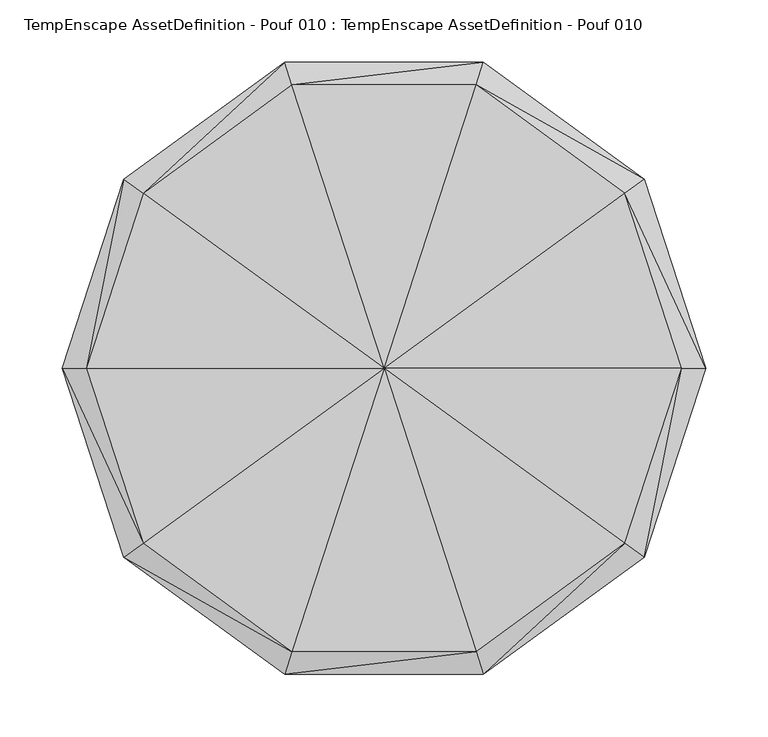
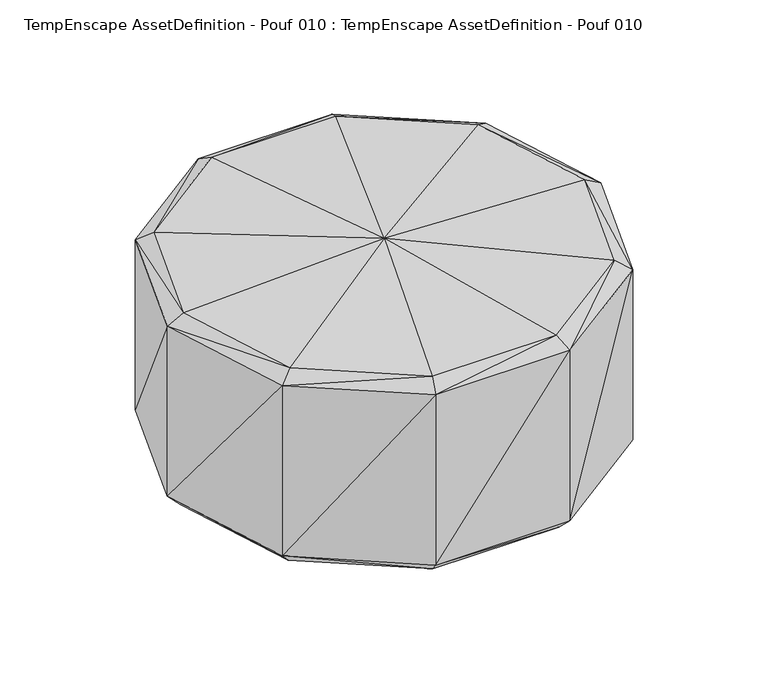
"""IFC4 building model written with IfcOpenShell, lengths in millimetres: geographic element geometry, TempEnscape AssetDefinition - Pouf 010 : TempEnscape AssetDefinition - Pouf 010."""

from ifc_helpers import new_model, si_unit, origin, place, context, project, spatial, faceted_brep, source, transform, mapped, element, save


def tempenscape_assetdefinition_pouf_010_tempenscape_f05cd489(model_context):
    return source(origin(), model_context, "Body", "Brep", [
        faceted_brep([(208.4229152, 151.4284016, 229.6982532), (257.624974, 0.0, 15.5799464), (208.4229152, 151.4284016, 15.5799464), (257.624974, 0.0, 229.6982532), (208.4229152, -151.4279546, 15.5799464), (195.818863, 142.2705438, 0.0), (242.0450416, 0.0, 0.0), (208.4229152, -151.4279546, 229.6982532), (193.0582684, 140.2651105, 240.0472827), (238.6331212, 0.0, 240.0472827), (79.6104282, -245.0159595, 15.5799464), (195.818863, -142.2705438, 0.0), (0.0, 0.0, 0.0), (74.7961112, 230.1988329, 0.0), (-74.7961112, 230.1988329, 0.0), (79.6104282, 245.0159595, 15.5799464), (79.6104282, 245.0159595, 229.6982532), (-79.6104282, 245.0159595, 229.6982532), (-79.6104282, 245.0159595, 15.5799464), (-195.818863, 142.2705438, 0.0), (-208.4229152, 151.4284016, 229.6982532), (-208.4229152, 151.4284016, 15.5799464), (-73.7417078, 226.9534694, 240.0472827), (-193.0582684, 140.2651105, 240.0472827), (-257.624974, 0.0, 229.6982532), (-238.6331212, 0.0, 240.0472827), (-257.624974, 0.0, 15.5799464), (-242.0450416, 0.0, 0.0), (-195.818863, -142.2705438, 0.0), (-208.4229152, -151.4279546, 229.6982532), (-208.4229152, -151.4279546, 15.5799464), (-193.0582684, -140.2646635, 240.0472827), (0.0, 0.0, 250.0), (-73.7417078, -226.9534694, 240.0472827), (-79.6104282, -245.0159595, 229.6982532), (-79.6104282, -245.0159595, 15.5799464), (-74.7961112, -230.1988329, 0.0), (74.7961112, -230.1988329, 0.0), (79.6104282, -245.0159595, 229.6982532), (73.7417078, -226.9534694, 240.0472827), (193.0582684, -140.2646635, 240.0472827), (73.7417078, 226.9534694, 240.0472827)], [[[0, 1, 2]], [[1, 0, 3]], [[3, 4, 1]], [[1, 5, 2]], [[5, 1, 6]], [[4, 6, 1]], [[4, 3, 7]], [[8, 3, 0]], [[3, 8, 9]], [[9, 7, 3]], [[7, 10, 4]], [[10, 11, 4]], [[6, 4, 11]], [[12, 5, 6]], [[12, 6, 11]], [[12, 13, 5]], [[13, 2, 5]], [[12, 14, 13]], [[2, 13, 15]], [[14, 15, 13]], [[16, 2, 15]], [[2, 16, 0]], [[17, 15, 18]], [[15, 17, 16]], [[15, 14, 18]], [[12, 19, 14]], [[19, 18, 14]], [[20, 18, 21]], [[18, 20, 17]], [[18, 19, 21]], [[22, 16, 17]], [[23, 17, 20]], [[17, 23, 22]], [[21, 24, 20]], [[25, 20, 24]], [[20, 25, 23]], [[24, 21, 26]], [[21, 27, 26]], [[27, 21, 19]], [[12, 27, 19]], [[12, 28, 27]], [[28, 26, 27]], [[29, 26, 30]], [[26, 29, 24]], [[26, 28, 30]], [[31, 24, 29]], [[24, 31, 25]], [[32, 23, 25]], [[32, 25, 31]], [[29, 33, 31]], [[32, 31, 33]], [[30, 34, 29]], [[33, 29, 34]], [[34, 30, 35]], [[30, 36, 35]], [[36, 30, 28]], [[12, 36, 28]], [[12, 37, 36]], [[37, 35, 36]], [[38, 35, 10]], [[35, 38, 34]], [[35, 37, 10]], [[39, 34, 38]], [[34, 39, 33]], [[32, 33, 39]], [[38, 40, 39]], [[32, 39, 40]], [[10, 7, 38]], [[40, 38, 7]], [[11, 10, 37]], [[12, 11, 37]], [[7, 9, 40]], [[32, 40, 9]], [[32, 9, 8]], [[32, 8, 41]], [[32, 41, 22]], [[32, 22, 23]], [[0, 41, 8]], [[41, 0, 16]], [[16, 22, 41]]]),
    ])


if __name__ == "__main__":
    model = new_model("IFC4")
    model_context = context("Model", 3, world=origin())
    ifc_project = project(units=[si_unit("LENGTHUNIT", "METRE", prefix="MILLI")], contexts=[model_context])
    site = spatial("IfcSite", under=ifc_project)
    building = spatial("IfcBuilding", under=site)
    placement = place(None, origin())
    tempenscape_assetdefinition_pouf_010_tempenscape_shape = tempenscape_assetdefinition_pouf_010_tempenscape_f05cd489(model_context)
    element("IfcGeographicElement", 1, ObjectType="TempEnscape AssetDefinition - Pouf 010 : TempEnscape AssetDefinition - Pouf 010", at=placement, inside=building, context=model_context, shape_type="MappedRepresentation", body=[
        mapped(tempenscape_assetdefinition_pouf_010_tempenscape_shape, transform((0.0, 0.0, 0.0), x_axis=(1.0, 0.0, 0.0), y_axis=(0.0, 1.0, 0.0), z_axis=(0.0, 0.0, 1.0))),
    ])
    save(model, "model.ifc")
